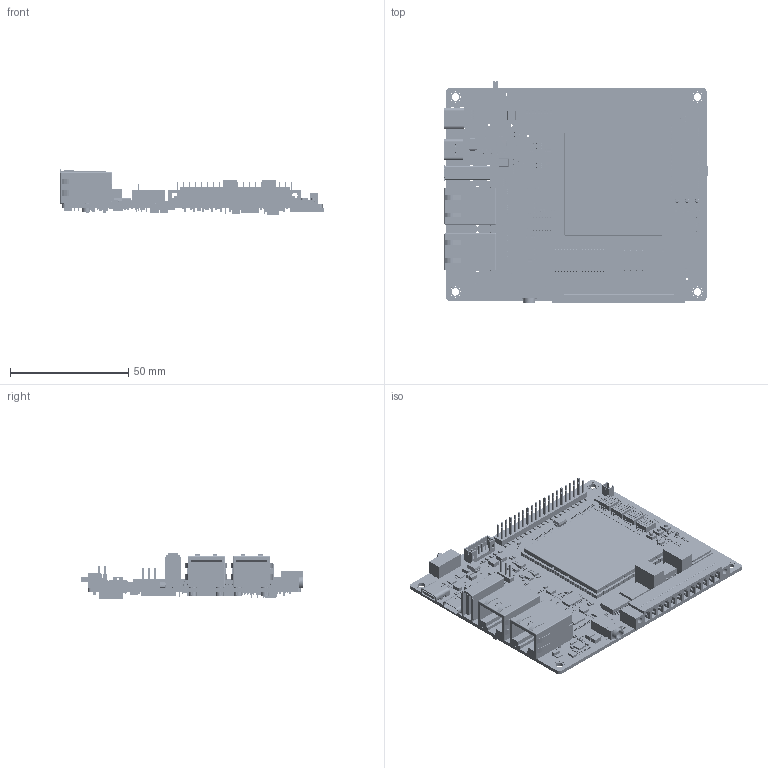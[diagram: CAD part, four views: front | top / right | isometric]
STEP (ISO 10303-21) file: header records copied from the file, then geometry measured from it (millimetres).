
FILE_DESCRIPTION((''),'2;1');
FILE_NAME('MYB-YM62LX_V10-20251028_ASM','2025-10-28T16:47:21',('MYIR'),(''),'CREO PARAMETRIC BY PTC INC, 2023073','CREO PARAMETRIC BY PTC INC, 2023073','');
FILE_SCHEMA(('AUTOMOTIVE_DESIGN { 1 0 10303 214 1 1 1 1 }'));
Products named in the file (145): MYB-YM62LX_V10-20251028; 21101-00077; 21203-00003; 20301-80423; 20701-00053; 21122-00013; 21107-00020; 20401-80188; 20401-80187; 20401-00103; 20401-80129; 20401-80262; 20401-80111; 20401-00086; 20401-80102; 20403-00006; 20701-00028; 20701-00061; 20701-00054; 20704-00003; 20801-00012; 20601-80008; 21107-00026; 21103-00005; 21109-00036; 21101-00051; 21116-00006; 20501-80032; 20501-00046; 20301-00203; 20301-80394; 20307-80002; 20301-00215; 20301-00290; 20301-00335; 20301-00226; 20301-80358; 21201-00007; 21203-00002; 20107-00093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
Assembly tree (932 placements, depth 4):
  MYB-YM62LX_V10-20251028_ASM
    MYB-YM62LX_V10-20251028
    21101-00077
    21203-00003
    20301-80423
    20701-00053
    21122-00013
    21107-00020
    20401-80188  x50
    20401-80187  x16
    20401-00103  x6
    20401-80129  x16
    20401-80262  x2
    20401-80111  x12
    20401-00086  x2
    20401-80102
    20403-00006  x2
    20701-00028  x4
    20701-00061  x2
    20701-00054  x2
    20704-00003
    20801-00012
    20601-80008  x4
    21107-00026
    21103-00005
    21109-00036
    21101-00051
    21116-00006
    20501-80032
    20501-00046
    20301-00203
    20301-80394  x5
    20307-80002  x2
    20301-00215  x2
    20301-00290  x2
    20301-00335  x2
    20301-00226  x3
    20301-80358  x2
    21201-00007  x3
    21203-00002  x4
    20107-00093
    20107-00108  x2
    20107-00074
    20204-00016  x2
    20115-80094
    20201-00007
    20103-80077
    20103-00069
    20107-80131
    20105-00023
    20902-00016
    20901-00005  x2
    20901-00028
    20902-00002
    20801-00014
    C0402  x10
    21114-00004
    20501-00034  x3
    20301-00214  x8
    20703-80023
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Bounding box: 111.67 x 94.05 x 19.58 mm (x, y, z)
Volume: 35870.1 mm3; surface area: 56781.7 mm2
Topology: 928 solids, 1080 shells, 25596 faces, 86853 edges, 75851 vertices
Faces by surface type: plane 22311, cylinder 1761, sphere 1518, torus 6
Entity records: 677585 total; most frequent: DIRECTION 96029, CARTESIAN_POINT 87749, ORIENTED_EDGE 58792, PRESENTATION_STYLE_ASSIGNMENT 38718, STYLED_ITEM 37996, VECTOR 35800, LINE 35800, CURVE_STYLE 35390
